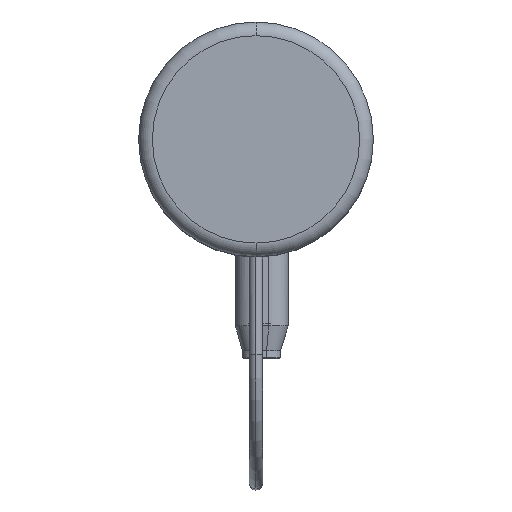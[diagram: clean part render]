
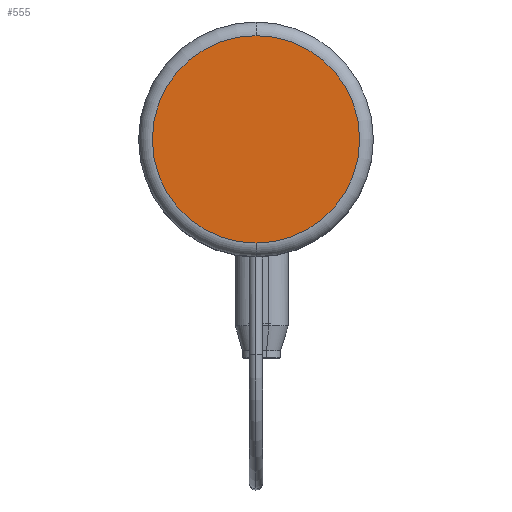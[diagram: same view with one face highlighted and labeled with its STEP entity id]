
A CAD part, top view. The second image highlights one B-rep face of the part: STEP entity #555.
In plain terms, the highlighted planar face has unit normal (0, 0, 1).
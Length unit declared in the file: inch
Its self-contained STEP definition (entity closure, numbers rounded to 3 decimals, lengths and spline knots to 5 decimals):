
#349 = EDGE_CURVE ( 'NONE', #2770, #3158, #3870, .T. ) ;
#449 = DIRECTION ( 'NONE',  ( 0., 0., -1. ) ) ;
#478 = AXIS2_PLACEMENT_3D ( 'NONE', #2962, #3277, #2893 ) ;
#529 = CARTESIAN_POINT ( 'NONE',  ( 0., 0.53, 1.4 ) ) ;
#555 = ADVANCED_FACE ( 'NONE', ( #1488 ), #3779, .T. ) ;
#884 = ORIENTED_EDGE ( 'NONE', *, *, #349, .F. ) ;
#1226 = EDGE_LOOP ( 'NONE', ( #3172, #884 ) ) ;
#1240 = DIRECTION ( 'NONE',  ( 0., 1., 0. ) ) ;
#1488 = FACE_OUTER_BOUND ( 'NONE', #1226, .T. ) ;
#1562 = DIRECTION ( 'NONE',  ( 0., 1., 0. ) ) ;
#1824 = AXIS2_PLACEMENT_3D ( 'NONE', #3796, #449, #1240 ) ;
#2394 = EDGE_CURVE ( 'NONE', #3158, #2770, #3949, .T. ) ;
#2651 = AXIS2_PLACEMENT_3D ( 'NONE', #2656, #4491, #1562 ) ;
#2656 = CARTESIAN_POINT ( 'NONE',  ( 0., 0., 1.4 ) ) ;
#2770 = VERTEX_POINT ( 'NONE', #3171 ) ;
#2893 = DIRECTION ( 'NONE',  ( 0., -1., 0. ) ) ;
#2962 = CARTESIAN_POINT ( 'NONE',  ( 0., 0., 1.4 ) ) ;
#3158 = VERTEX_POINT ( 'NONE', #529 ) ;
#3171 = CARTESIAN_POINT ( 'NONE',  ( 0., -0.53, 1.4 ) ) ;
#3172 = ORIENTED_EDGE ( 'NONE', *, *, #2394, .F. ) ;
#3277 = DIRECTION ( 'NONE',  ( 0., 0., 1. ) ) ;
#3779 = PLANE ( 'NONE',  #478 ) ;
#3796 = CARTESIAN_POINT ( 'NONE',  ( 0., 0., 1.4 ) ) ;
#3870 = CIRCLE ( 'NONE', #2651, 0.53 ) ;
#3949 = CIRCLE ( 'NONE', #1824, 0.53 ) ;
#4491 = DIRECTION ( 'NONE',  ( 0., 0., -1. ) ) ;
